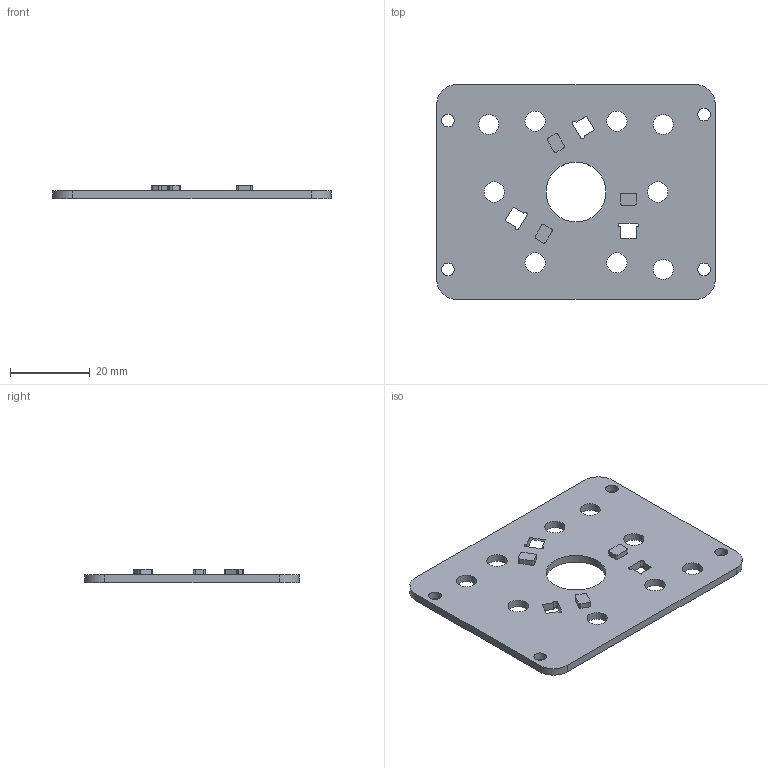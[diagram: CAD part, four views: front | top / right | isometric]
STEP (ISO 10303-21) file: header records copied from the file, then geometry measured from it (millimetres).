
FILE_DESCRIPTION (( 'STEP AP203' ), '1' );
FILE_NAME ('Sensor_support.step', '2026-06-05T03:33:03', ( '' ), ( '' ), 'SwSTEP 2.0', 'SolidWorks 2024', '' );
FILE_SCHEMA (( 'CONFIG_CONTROL_DESIGN' ));
Length unit declared in the file: millimetre
Products named in the file (1): Sensor_support
Bounding box: 69.8 x 53.8 x 3.35 mm (x, y, z)
Volume: 6611.7 mm3; surface area: 7680 mm2
Topology: 1 solids, 1 shells, 88 faces, 249 edges, 166 vertices
Faces by surface type: cylinder 55, plane 33
Entity records: 3048 total; most frequent: DIRECTION 537, CARTESIAN_POINT 504, ORIENTED_EDGE 498, EDGE_CURVE 249, AXIS2_PLACEMENT_3D 199, VERTEX_POINT 166, LINE 139, VECTOR 139
